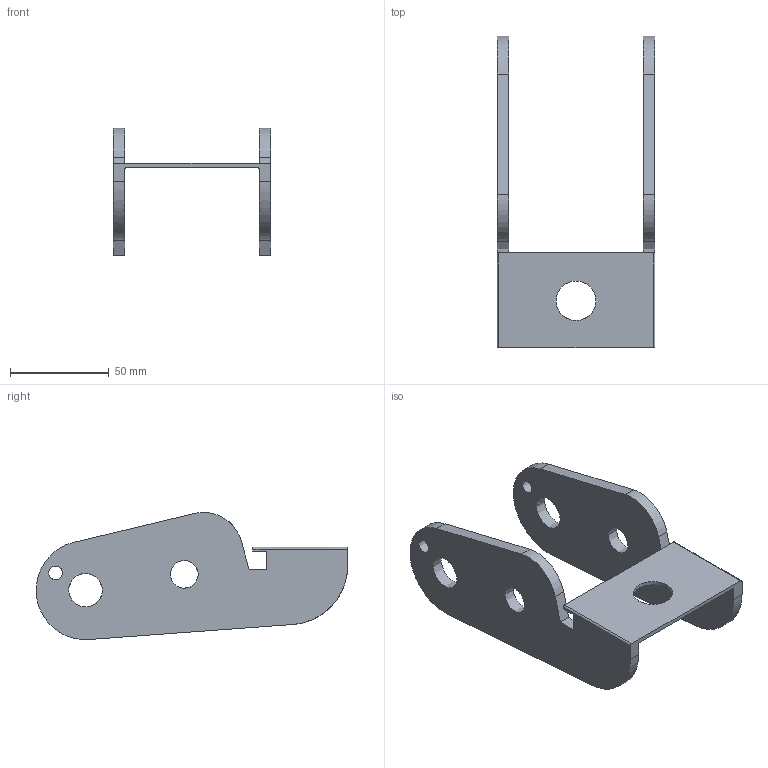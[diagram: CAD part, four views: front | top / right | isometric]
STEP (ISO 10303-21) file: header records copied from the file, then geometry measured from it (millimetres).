
FILE_DESCRIPTION (( 'STEP AP214' ), '1' );
FILE_NAME ('KTU-150WK-GS-30.STEP', '2018-08-30T07:47:37', ( '' ), ( '' ), 'SwSTEP 2.0', 'SolidWorks 2010', '' );
FILE_SCHEMA (( 'AUTOMOTIVE_DESIGN' ));
Length unit declared in the file: millimetre
Products named in the file (1): KTU-150WK-GS-30
Bounding box: 80 x 157.74 x 64.42 mm (x, y, z)
Volume: 87417 mm3; surface area: 39627.8 mm2
Topology: 1 solids, 1 shells, 42 faces, 120 edges, 80 vertices
Faces by surface type: bspline 24, plane 18
Entity records: 3572 total; most frequent: CARTESIAN_POINT 2589, ORIENTED_EDGE 240, EDGE_CURVE 120, DIRECTION 104, VERTEX_POINT 80, VECTOR 66, LINE 66, EDGE_LOOP 56
